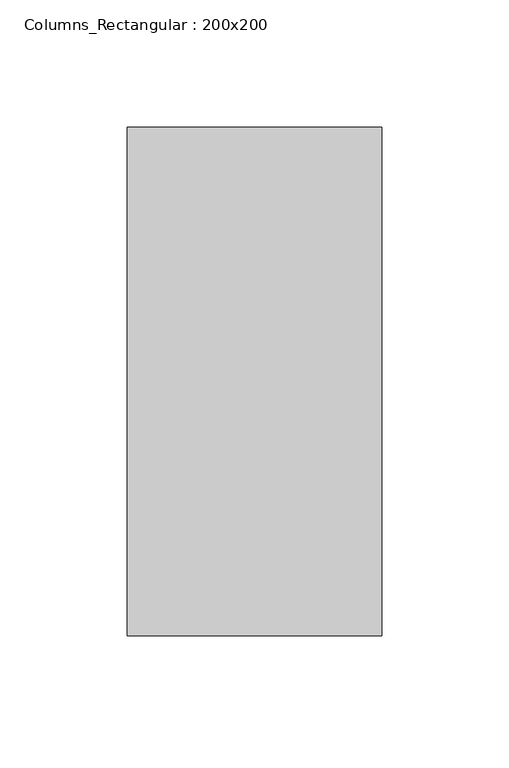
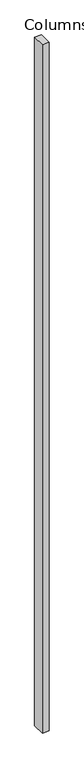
"""IFC4 building model written with IfcOpenShell, lengths in millimetres: column geometry, Columns_Rectangular : 200x200."""

from ifc_helpers import new_model, si_unit, frame, origin, place, context, project, spatial, polyline, outline, extrude, source, transform, mapped, element, save


def columns_rectangular_200x200_40a822b3(model_context):
    return source(origin(), model_context, "Body", "SweptSolid", [
        extrude(outline(polyline([(50.0, 100.0), (50.0, -100.0), (-50.0, -100.0), (-50.0, 100.0), (50.0, 100.0)])), frame((0.0, 0.0, 2800.0), z_axis=(0.0, 0.0, 1.0), x_axis=(1.0, 0.0, 0.0)), (0.0, 0.0, 1.0), 11000.0),
    ])


if __name__ == "__main__":
    model = new_model("IFC4")
    model_context = context("Model", 3, world=origin())
    ifc_project = project(units=[si_unit("LENGTHUNIT", "METRE", prefix="MILLI")], contexts=[model_context])
    site = spatial("IfcSite", under=ifc_project)
    building = spatial("IfcBuilding", under=site)
    placement = place(None, origin())
    columns_rectangular_200x200_shape = columns_rectangular_200x200_40a822b3(model_context)
    element("IfcColumn", 1, ObjectType="Columns_Rectangular : 200x200", at=placement, inside=building, context=model_context, shape_type="MappedRepresentation", body=[
        mapped(columns_rectangular_200x200_shape, transform((0.0, 0.0, 0.0), x_axis=(1.0, 0.0, 0.0), y_axis=(0.0, 1.0, 0.0), z_axis=(0.0, 0.0, 1.0))),
    ])
    save(model, "model.ifc")
